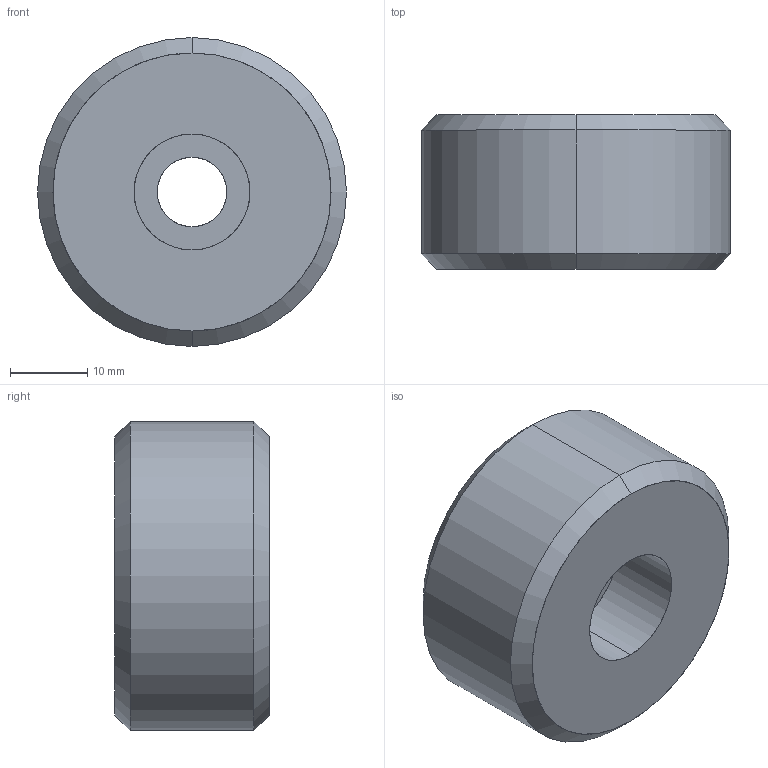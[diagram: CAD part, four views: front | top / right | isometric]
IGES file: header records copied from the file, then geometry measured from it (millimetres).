
Start section: START RECORD GO HERE.
Global section: file name: 758+40+20+10.igs; native system: DASSAULT SYSTEMES CATIA V5 R20 - www.3ds.com; preprocessor: CATIA Version 5 Release 20 ; author: Utente; organization: NB04-ASUS; date: 20201028.202647; units: millimetre
Bounding box: 40 x 20 x 40 mm (x, y, z)
Surface area: 5348.4 mm2 (no closed solid volume)
Topology: 0 solids, 0 shells, 13 faces, 52 edges, 52 vertices
Faces by surface type: revolution 10, plane 3
